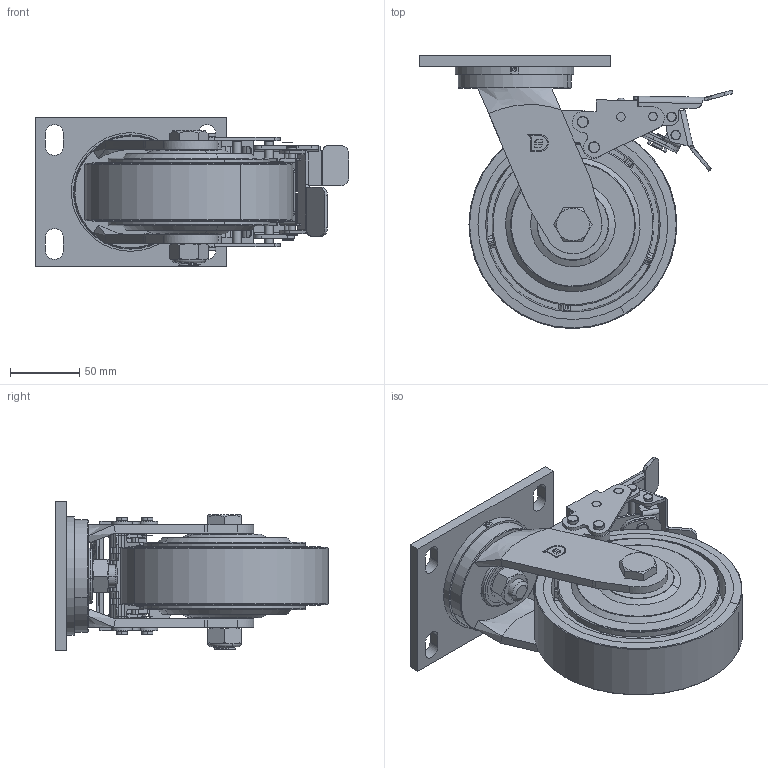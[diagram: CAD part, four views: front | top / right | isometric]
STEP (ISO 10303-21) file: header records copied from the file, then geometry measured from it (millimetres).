
FILE_DESCRIPTION((''),'2;1');
FILE_NAME('PRT0016','2026-01-26T09:15:28',('Administrator'),(''),'CREO PARAMETRIC BY PTC INC, 2022124','CREO PARAMETRIC BY PTC INC, 2022124','');
FILE_SCHEMA(('AUTOMOTIVE_DESIGN { 1 0 10303 214 1 1 1 1 }'));
Length unit declared in the file: millimetre
Products named in the file (1): PRT0016
Bounding box: 226.45 x 197 x 108 mm (x, y, z)
Surface area: 247464 mm2 (no closed solid volume)
Topology: 0 solids, 78 shells, 600 faces, 2282 edges, 1750 vertices
Faces by surface type: plane 249, cylinder 214, cone 56, torus 47, bspline 33, extrusion 1
Entity records: 32065 total; most frequent: CARTESIAN_POINT 9101, DIRECTION 3732, ORIENTED_EDGE 3537, EDGE_CURVE 2278, VERTEX_POINT 1750, AXIS2_PLACEMENT_3D 1349, VECTOR 1031, LINE 1030
